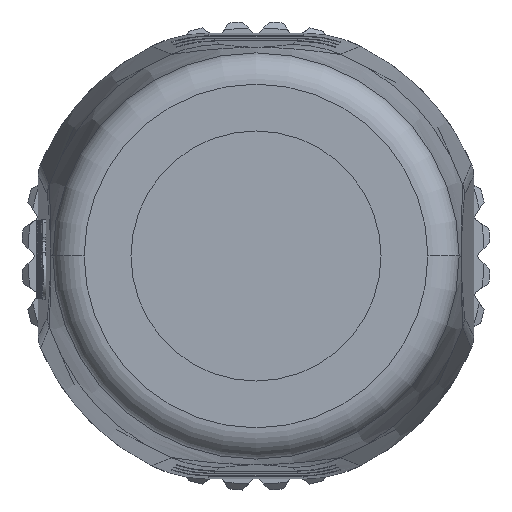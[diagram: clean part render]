
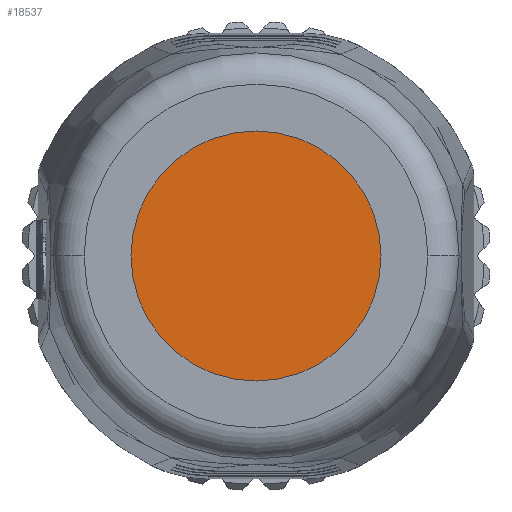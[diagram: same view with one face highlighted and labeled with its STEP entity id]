
A CAD part, front view. The second image highlights one B-rep face of the part: STEP entity #18537.
In plain terms, the highlighted planar face has unit normal (0, -1, 0).
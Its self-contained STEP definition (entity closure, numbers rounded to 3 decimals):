
#6786=CARTESIAN_POINT('',(0.,-65.6,0.));
#6787=DIRECTION('',(0.,-1.,0.));
#6788=DIRECTION('',(0.,0.,1.));
#6789=AXIS2_PLACEMENT_3D('',#6786,#6787,#6788);
#6791=CARTESIAN_POINT('',(0.,-65.6,0.));
#6792=DIRECTION('',(0.,-1.,0.));
#6793=DIRECTION('',(0.,0.,-1.));
#6794=AXIS2_PLACEMENT_3D('',#6791,#6792,#6793);
#10410=CARTESIAN_POINT('',(0.,-65.6,-4.));
#10411=CARTESIAN_POINT('',(0.,-65.6,4.));
#10412=VERTEX_POINT('',#10410);
#10413=VERTEX_POINT('',#10411);
#18528=CARTESIAN_POINT('',(0.,-65.6,0.));
#18529=DIRECTION('',(0.,-1.,0.));
#18530=DIRECTION('',(0.,0.,-1.));
#18531=AXIS2_PLACEMENT_3D('',#18528,#18529,#18530);
#18532=PLANE('',#18531);
#18533=ORIENTED_EDGE('',*,*,#18522,.F.);
#18534=ORIENTED_EDGE('',*,*,#18508,.F.);
#18535=EDGE_LOOP('',(#18533,#18534));
#18536=FACE_OUTER_BOUND('',#18535,.F.);
#6790=CIRCLE('',#6789,4.);
#6795=CIRCLE('',#6794,4.);
#18508=EDGE_CURVE('',#10412,#10413,#6795,.T.);
#18522=EDGE_CURVE('',#10413,#10412,#6790,.T.);
#18537=ADVANCED_FACE('',(#18536),#18532,.T.);
